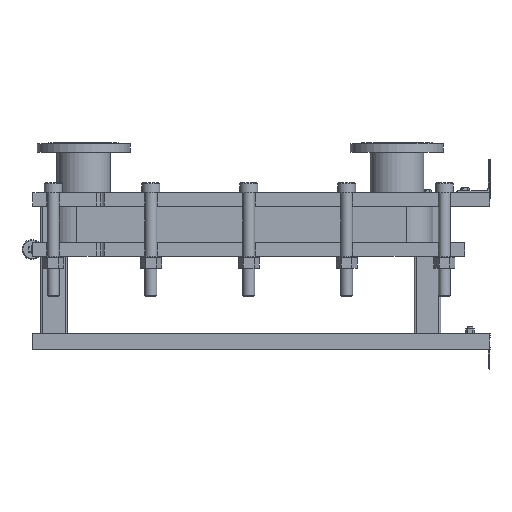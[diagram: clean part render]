
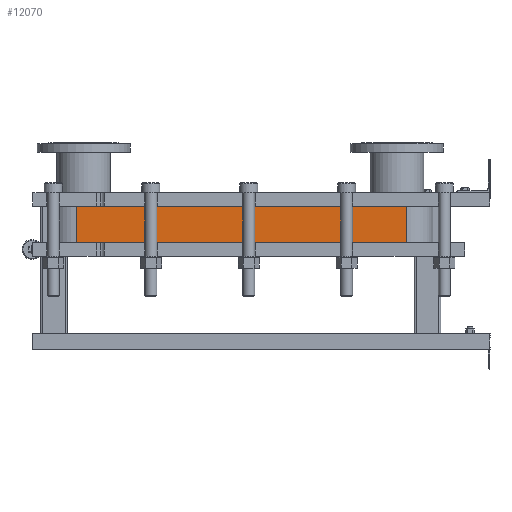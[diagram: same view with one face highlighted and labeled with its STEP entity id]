
A CAD part, left-side view. The second image highlights one B-rep face of the part: STEP entity #12070.
In plain terms, the highlighted planar face has unit normal (-1, 0, 0).
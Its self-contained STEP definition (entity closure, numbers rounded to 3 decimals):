
#1064=LINE('',#21140,#2164);
#1065=LINE('',#21144,#2165);
#1066=LINE('',#21146,#2166);
#1067=LINE('',#21147,#2167);
#2164=VECTOR('',#15790,10.);
#2165=VECTOR('',#15795,10.);
#2166=VECTOR('',#15796,10.);
#2167=VECTOR('',#15797,10.);
#3304=FACE_OUTER_BOUND('',#4091,.T.);
#4091=EDGE_LOOP('',(#9793,#9794,#9795,#9796));
#5677=VERTEX_POINT('',#21137);
#5678=VERTEX_POINT('',#21139);
#5679=VERTEX_POINT('',#21143);
#5680=VERTEX_POINT('',#21145);
#7118=EDGE_CURVE('',#5678,#5677,#1064,.T.);
#7120=EDGE_CURVE('',#5677,#5679,#1065,.T.);
#7121=EDGE_CURVE('',#5680,#5679,#1066,.T.);
#7122=EDGE_CURVE('',#5680,#5678,#1067,.T.);
#9793=ORIENTED_EDGE('',*,*,#7120,.T.);
#9794=ORIENTED_EDGE('',*,*,#7121,.F.);
#9795=ORIENTED_EDGE('',*,*,#7122,.T.);
#9796=ORIENTED_EDGE('',*,*,#7118,.T.);
#11441=PLANE('',#13191);
#12070=ADVANCED_FACE('',(#3304),#11441,.T.);
#13191=AXIS2_PLACEMENT_3D('',#21142,#15793,#15794);
#15790=DIRECTION('',(0.,0.,-1.));
#15793=DIRECTION('center_axis',(-1.,0.,0.));
#15794=DIRECTION('ref_axis',(0.,1.,0.));
#15795=DIRECTION('',(0.,-1.,0.));
#15796=DIRECTION('',(0.,0.,-1.));
#15797=DIRECTION('',(0.,1.,0.));
#21137=CARTESIAN_POINT('',(-248.152,1243.818,-110.4));
#21139=CARTESIAN_POINT('',(-248.152,1243.818,0.));
#21140=CARTESIAN_POINT('',(-248.152,1243.818,0.));
#21142=CARTESIAN_POINT('Origin',(-248.152,251.818,0.));
#21143=CARTESIAN_POINT('',(-248.152,251.818,-110.4));
#21144=CARTESIAN_POINT('',(-248.152,499.818,-110.4));
#21145=CARTESIAN_POINT('',(-248.152,251.818,0.));
#21146=CARTESIAN_POINT('',(-248.152,251.818,0.));
#21147=CARTESIAN_POINT('',(-248.152,251.818,0.));
